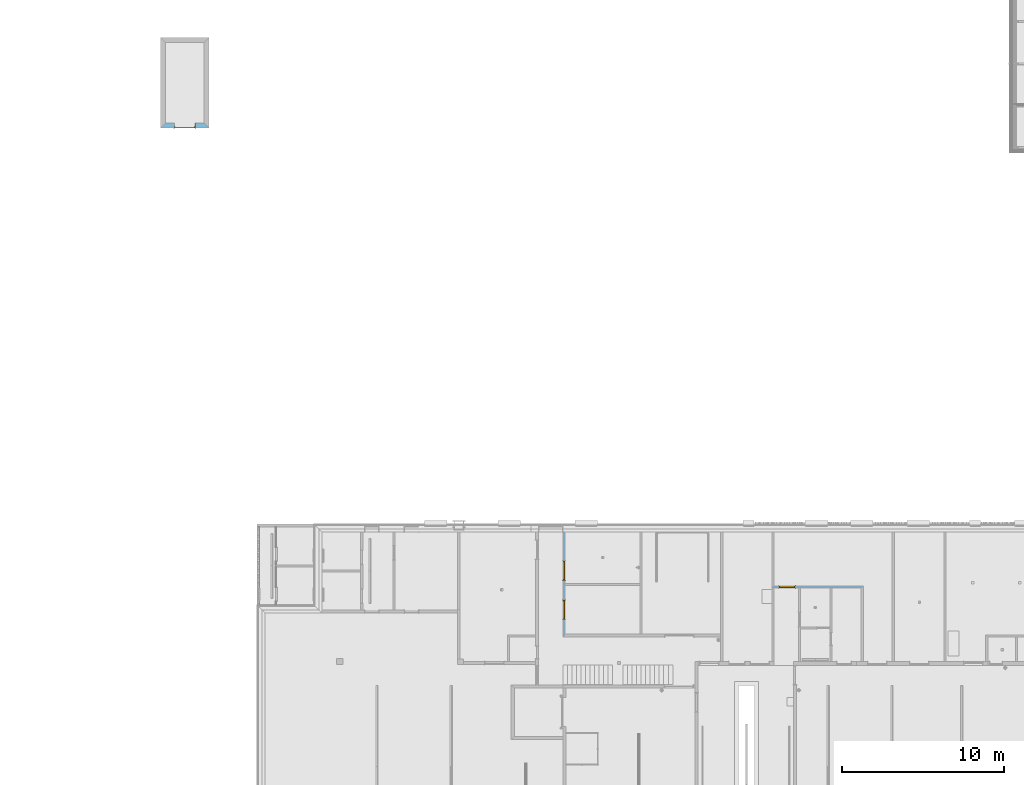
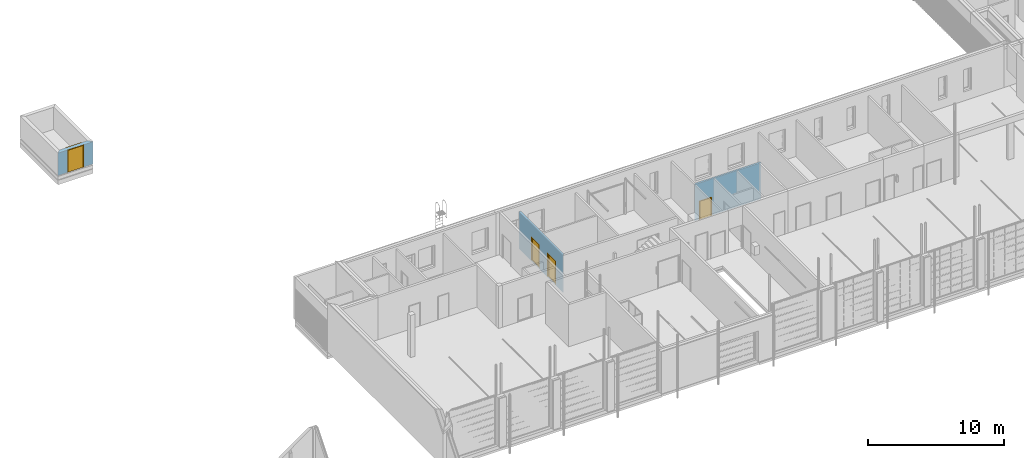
# One storey, part 45 of 112: 4 doors, 4 openings, plus 3 elements that do not belong to this part.
"""IFC2X3 building model written with IfcOpenShell, lengths in millimetres."""

from ifc_helpers import new_model, entity, si_unit, converted_unit, derived_unit, money_unit, direction, frame, origin_with_axes, origin_2d_with_axis, place, context, subcontext, project, spatial, polyline, rectangle, outline, extrude, faceted_brep, material, layer, layer_set, layer_usage, type_object, element, fill, save


model = new_model("IFC2X3")

# Units and contexts
model_context = context("Model", 3, precision=0.01, world=origin_with_axes(), true_north=direction((0.0, 1.0)))
body_context = subcontext(model_context, "Body", "Model", "MODEL_VIEW")
ifc_project = project(units=[si_unit("LENGTHUNIT", "METRE", prefix="MILLI"), si_unit("AREAUNIT", "SQUARE_METRE"), si_unit("VOLUMEUNIT", "CUBIC_METRE"), converted_unit("PLANEANGLEUNIT", "DEGREE", entity("IfcPlaneAngleMeasure", 0.0174532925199), si_unit("PLANEANGLEUNIT", "RADIAN"), dimensions=[0, 0, 0, 0, 0, 0, 0]), si_unit("SOLIDANGLEUNIT", "STERADIAN"), money_unit("EUR"), converted_unit("TIMEUNIT", "Year", entity("IfcTimeMeasure", 31556926.0), si_unit("TIMEUNIT", "SECOND"), dimensions=[0, 0, 1, 0, 0, 0, 0]), si_unit("MASSUNIT", "GRAM", prefix="KILO"), si_unit("THERMODYNAMICTEMPERATUREUNIT", "DEGREE_CELSIUS"), si_unit("LUMINOUSINTENSITYUNIT", "LUMEN"), si_unit("ENERGYUNIT", "JOULE", prefix="MEGA"), derived_unit("THERMALCONDUCTANCEUNIT", [(si_unit("POWERUNIT", "WATT"), 1), (si_unit("LENGTHUNIT", "METRE"), -1), (si_unit("THERMODYNAMICTEMPERATUREUNIT", "KELVIN"), -1)]), derived_unit("SPECIFICHEATCAPACITYUNIT", [(si_unit("ENERGYUNIT", "JOULE"), 1), (si_unit("MASSUNIT", "GRAM", prefix="KILO"), -1), (si_unit("THERMODYNAMICTEMPERATUREUNIT", "KELVIN"), -1)]), derived_unit("MASSDENSITYUNIT", [(si_unit("MASSUNIT", "GRAM", prefix="KILO"), 1), (si_unit("VOLUMEUNIT", "CUBIC_METRE"), -1)])], contexts=[model_context])

# Site, building, storey
site_placement = place(None, origin_with_axes())
site = spatial("IfcSite", under=ifc_project, at=site_placement, Name="Politse- ja Piirivalveameti ning Päästeameti ühishoone", CompositionType="ELEMENT")
building_placement = place(site_placement, origin_with_axes())
building = spatial("IfcBuilding", under=site, at=building_placement, Name="Politse- ja Piirivalveameti ning Päästeameti ühishoone", CompositionType="ELEMENT")
storey_placement = place(building_placement, origin_with_axes())
storey = spatial("IfcBuildingStorey", under=building, at=storey_placement, Name="Esimene korrus", CompositionType="ELEMENT", Elevation=0.0)

# Wall, openings, doors
ifc_material_1 = material(Name="KON-05_Betoon Plokk - Konstuktsioon")
ifc_layer_1 = layer(ifc_material_1, 140.0, ventilated="UNKNOWN")
ifc_layer_set_1 = layer_set([ifc_layer_1], Name="SS-02_Sisesein 140")
ifc_layer_usage_1 = layer_usage(ifc_layer_set_1, "AXIS2", "POSITIVE", 0.0)
wall_type_1 = type_object("IfcWallType", Name="SS-02_Sisesein 140 140", PredefinedType="NOTDEFINED")
wall_1_placement = place(storey_placement, frame((18400.0881112, 20999.9520832, -80.0), z_axis=(0.0, 0.0, 1.0), x_axis=(0.0, -1.0, 0.0)))
wall_1 = element("IfcWallStandardCase", 1, at=wall_1_placement, inside=storey, type_object=wall_type_1, material=ifc_layer_usage_1, Name="SS-02", context=body_context, shape_type="SweptSolid", body=[
    extrude(outline(polyline([(0.0, 0.0), (6499.9099304, 0.0), (6309.9099304, 140.0), (0.0, 140.0), (0.0, 0.0)])), origin_with_axes(), (0.0, 0.0, 1.0), 3360.0),
])
opening_1_placement = place(wall_1_placement, frame((2378.72633844, 0.0, 80.0), z_axis=(0.0, 0.0, 1.0), x_axis=(1.0, 0.0, 0.0)))
opening_1 = element("IfcOpeningElement", 2, at=opening_1_placement, cuts=wall_1, Name="TU-01-2", context=body_context, shape_type="SweptSolid", body=[
    extrude(rectangle(XDim=1200.0, YDim=2100.0, at=origin_2d_with_axis()), frame((0.0, -140.0, 1050.0), z_axis=(0.0, -1.0, 0.0), x_axis=(-1.0, 0.0, 0.0)), (0.0, 0.0, -1.0), 420.0),
    extrude(rectangle(XDim=1274.0, YDim=2137.0, at=origin_2d_with_axis()), frame((0.0, 0.0, 1068.5), z_axis=(0.0, -1.0, 0.0), x_axis=(-1.0, 0.0, 0.0)), (0.0, 0.0, 1.0), 140.0),
    extrude(rectangle(XDim=1274.0, YDim=2137.0, at=origin_2d_with_axis()), frame((0.0, 140.0, 1068.5), z_axis=(0.0, 1.0, 0.0), x_axis=(-1.0, 0.0, 0.0)), (0.0, 0.0, 1.0), 140.0),
])
opening_2_placement = place(wall_1_placement, frame((4809.88896278, 0.0, 80.0), z_axis=(0.0, 0.0, 1.0), x_axis=(1.0, 0.0, 0.0)))
opening_2 = element("IfcOpeningElement", 3, at=opening_2_placement, cuts=wall_1, Name="TU-01-2", context=body_context, shape_type="SweptSolid", body=[
    extrude(rectangle(XDim=1200.0, YDim=2100.0, at=origin_2d_with_axis()), frame((0.0, -140.0, 1050.0), z_axis=(0.0, 1.0, 0.0), x_axis=(1.0, 0.0, 0.0)), (0.0, 0.0, 1.0), 420.0),
    extrude(rectangle(XDim=1274.0, YDim=2137.0, at=origin_2d_with_axis()), frame((0.0, 0.0, 1068.5), z_axis=(0.0, 1.0, 0.0), x_axis=(1.0, 0.0, 0.0)), (0.0, 0.0, -1.0), 140.0),
    extrude(rectangle(XDim=1274.0, YDim=2137.0, at=origin_2d_with_axis()), frame((0.0, 140.0, 1068.5), z_axis=(0.0, -1.0, 0.0), x_axis=(1.0, 0.0, 0.0)), (0.0, 0.0, -1.0), 140.0),
])
door_style_1 = type_object("IfcDoorStyle", Name="Double Door Asymmetric 23", ConstructionType="NOTDEFINED", OperationType="DOUBLE_DOOR_SINGLE_SWING", ParameterTakesPrecedence=False, Sizeable=False)
door_1_placement = place(opening_1_placement, frame((-600.0, 0.0, 0.0), z_axis=(0.0, 0.0, 1.0), x_axis=(1.0, 0.0, 0.0)))
door_1 = element("IfcDoor", 4, at=door_1_placement, inside=storey, type_object=door_style_1, Name="TU-01-2", ObjectType="DOOR", OverallHeight=2100.0, OverallWidth=1200.0, context=body_context, shape_type="Brep", body=[
    faceted_brep([(28.0, 100.0, 0.0), (40.0, 100.0, 0.0), (40.0, 100.0, 12.0), (28.0, 100.0, 12.0), (1172.0, 100.0, 0.0), (1160.0, 100.0, 0.0), (1160.0, 25.0, 0.0), (40.0, 25.0, 0.0), (40.0, 25.0, 12.0), (1160.0, 25.0, 12.0), (1160.0, 100.0, 12.0), (1172.0, 100.0, 12.0)], [[[0, 1, 2, 3]], [[0, 4, 5, 6, 7, 1]], [[1, 7, 8, 2]], [[3, 2, 8, 9, 10, 11]], [[4, 0, 3, 11]], [[5, 4, 11, 10]], [[6, 5, 10, 9]], [[7, 6, 9, 8]]]),
    faceted_brep([(1200.0, 25.0, 0.0), (1200.0, 0.0, 0.0), (1175.0, 0.0, 0.0), (1175.0, 25.0, 0.0), (1200.0, 25.0, 2100.0), (1200.0, 0.0, 2100.0), (1175.0, 0.0, 2075.0), (1175.0, 25.0, 2075.0)], [[[0, 1, 2, 3]], [[4, 5, 1, 0]], [[1, 5, 6, 2]], [[3, 2, 6, 7]], [[0, 3, 7, 4]], [[7, 6, 5, 4]]]),
    faceted_brep([(0.0, 25.0, 2100.0), (0.0, 0.0, 2100.0), (25.0, 0.0, 2075.0), (25.0, 25.0, 2075.0), (0.0, 25.0, 0.0), (0.0, 0.0, 0.0), (25.0, 0.0, 0.0), (25.0, 25.0, 0.0)], [[[0, 1, 2, 3]], [[4, 5, 1, 0]], [[1, 5, 6, 2]], [[3, 2, 6, 7]], [[0, 3, 7, 4]], [[7, 6, 5, 4]]]),
    faceted_brep([(1175.0, 25.0, 2075.0), (1175.0, 0.0, 2075.0), (25.0, 0.0, 2075.0), (25.0, 25.0, 2075.0), (1200.0, 25.0, 2100.0), (1200.0, 0.0, 2100.0), (0.0, 0.0, 2100.0), (0.0, 25.0, 2100.0)], [[[0, 1, 2, 3]], [[4, 5, 1, 0]], [[1, 5, 6, 2]], [[3, 2, 6, 7]], [[0, 3, 7, 4]], [[7, 6, 5, 4]]]),
    faceted_brep([(1237.0, -19.0, 0.0), (1187.0, -19.0, 0.0), (1187.0, 0.0, 0.0), (1237.0, 0.0, 0.0), (1237.0, -19.0, 2137.0), (1187.0, -19.0, 2087.0), (1187.0, 0.0, 2087.0), (1237.0, 0.0, 2137.0)], [[[0, 1, 2, 3]], [[0, 4, 5, 1]], [[1, 5, 6, 2]], [[3, 2, 6, 7]], [[4, 0, 3, 7]], [[5, 4, 7, 6]]]),
    faceted_brep([(-37.0, -19.0, 2137.0), (13.0, -19.0, 2087.0), (13.0, 0.0, 2087.0), (-37.0, 0.0, 2137.0), (-37.0, -19.0, 0.0), (13.0, -19.0, 0.0), (13.0, 0.0, 0.0), (-37.0, 0.0, 0.0)], [[[0, 1, 2, 3]], [[0, 4, 5, 1]], [[1, 5, 6, 2]], [[3, 2, 6, 7]], [[4, 0, 3, 7]], [[5, 4, 7, 6]]]),
    faceted_brep([(1237.0, -19.0, 2137.0), (1187.0, -19.0, 2087.0), (1187.0, 0.0, 2087.0), (1237.0, 0.0, 2137.0), (-37.0, -19.0, 2137.0), (13.0, -19.0, 2087.0), (13.0, 0.0, 2087.0), (-37.0, 0.0, 2137.0)], [[[0, 1, 2, 3]], [[0, 4, 5, 1]], [[1, 5, 6, 2]], [[3, 2, 6, 7]], [[4, 0, 3, 7]], [[5, 4, 7, 6]]]),
    faceted_brep([(1237.0, 159.0, 0.0), (1237.0, 140.0, 0.0), (1187.0, 140.0, 0.0), (1187.0, 159.0, 0.0), (1237.0, 159.0, 2137.0), (1237.0, 140.0, 2137.0), (1187.0, 140.0, 2087.0), (1187.0, 159.0, 2087.0)], [[[0, 1, 2, 3]], [[4, 5, 1, 0]], [[1, 5, 6, 2]], [[3, 2, 6, 7]], [[0, 3, 7, 4]], [[7, 6, 5, 4]]]),
    faceted_brep([(-37.0, 159.0, 2137.0), (-37.0, 140.0, 2137.0), (13.0, 140.0, 2087.0), (13.0, 159.0, 2087.0), (-37.0, 159.0, 0.0), (-37.0, 140.0, 0.0), (13.0, 140.0, 0.0), (13.0, 159.0, 0.0)], [[[0, 1, 2, 3]], [[4, 5, 1, 0]], [[1, 5, 6, 2]], [[3, 2, 6, 7]], [[0, 3, 7, 4]], [[7, 6, 5, 4]]]),
    faceted_brep([(1237.0, 159.0, 2137.0), (1237.0, 140.0, 2137.0), (1187.0, 140.0, 2087.0), (1187.0, 159.0, 2087.0), (-37.0, 159.0, 2137.0), (-37.0, 140.0, 2137.0), (13.0, 140.0, 2087.0), (13.0, 159.0, 2087.0)], [[[0, 1, 2, 3]], [[4, 5, 1, 0]], [[1, 5, 6, 2]], [[3, 2, 6, 7]], [[0, 3, 7, 4]], [[7, 6, 5, 4]]]),
    faceted_brep([(1160.0, 100.0, 0.0), (1160.0, 25.0, 0.0), (1160.0, 25.0, 2060.0), (1160.0, 100.0, 2060.0), (1172.0, 100.0, 0.0), (1172.0, 140.0, 0.0), (1200.0, 140.0, 0.0), (1200.0, 25.0, 0.0), (1200.0, 25.0, 2060.0), (1172.0, 100.0, 2060.0), (1200.0, 140.0, 2060.0), (1172.0, 140.0, 2060.0)], [[[0, 1, 2, 3]], [[4, 5, 6, 7, 1, 0]], [[1, 7, 8, 2]], [[9, 3, 2, 8, 10, 11]], [[9, 4, 0, 3]], [[11, 5, 4, 9]], [[11, 10, 6, 5]], [[6, 10, 8, 7]]]),
    faceted_brep([(28.0, 100.0, 2060.0), (28.0, 140.0, 2060.0), (0.0, 140.0, 2060.0), (0.0, 25.0, 2060.0), (40.0, 25.0, 2060.0), (40.0, 100.0, 2060.0), (28.0, 100.0, 0.0), (28.0, 140.0, 0.0), (0.0, 140.0, 0.0), (0.0, 25.0, 0.0), (40.0, 25.0, 0.0), (40.0, 100.0, 0.0)], [[[0, 1, 2, 3, 4, 5]], [[0, 6, 7, 1]], [[7, 8, 2, 1]], [[2, 8, 9, 3]], [[3, 9, 10, 4]], [[5, 4, 10, 11]], [[5, 11, 6, 0]], [[6, 11, 10, 9, 8, 7]]]),
    faceted_brep([(1172.0, 140.0, 2072.0), (28.0, 140.0, 2072.0), (28.0, 140.0, 2060.0), (0.0, 140.0, 2060.0), (0.0, 140.0, 2100.0), (1200.0, 140.0, 2100.0), (1200.0, 140.0, 2060.0), (1172.0, 140.0, 2060.0), (1172.0, 100.0, 2072.0), (28.0, 100.0, 2072.0), (28.0, 100.0, 2060.0), (40.0, 100.0, 2060.0), (40.0, 25.0, 2060.0), (0.0, 25.0, 2060.0), (0.0, 25.0, 2100.0), (1200.0, 25.0, 2100.0), (1200.0, 25.0, 2060.0), (1172.0, 100.0, 2060.0), (1160.0, 25.0, 2060.0), (1160.0, 100.0, 2060.0)], [[[0, 1, 2, 3, 4, 5, 6, 7]], [[0, 8, 9, 1]], [[1, 9, 10, 2]], [[10, 11, 12, 13, 3, 2]], [[4, 3, 13, 14]], [[5, 4, 14, 15]], [[6, 5, 15, 16]], [[17, 7, 6, 16, 18, 19]], [[7, 17, 8, 0]], [[10, 9, 8, 17, 19, 11]], [[19, 18, 12, 11]], [[12, 18, 16, 15, 14, 13]]]),
    faceted_brep([(28.0, 140.0, 0.0), (328.0, 140.0, 0.0), (328.0, 100.0, 0.0), (28.0, 100.0, 0.0), (28.0, 140.0, 2072.0), (328.0, 140.0, 2072.0), (328.0, 100.0, 2072.0), (28.0, 100.0, 2072.0)], [[[0, 1, 2, 3]], [[0, 4, 5, 1]], [[1, 5, 6, 2]], [[3, 2, 6, 7]], [[4, 0, 3, 7]], [[5, 4, 7, 6]]]),
    faceted_brep([(1172.0, 140.0, 0.0), (1172.0, 100.0, 0.0), (328.0, 100.0, 0.0), (328.0, 140.0, 0.0), (1172.0, 140.0, 2072.0), (1172.0, 100.0, 2072.0), (328.0, 100.0, 2072.0), (328.0, 140.0, 2072.0)], [[[0, 1, 2, 3]], [[4, 5, 1, 0]], [[1, 5, 6, 2]], [[3, 2, 6, 7]], [[0, 3, 7, 4]], [[7, 6, 5, 4]]]),
])
fill(opening_1, door_1)
door_style_2 = type_object("IfcDoorStyle", Name="Double Door Asymmetric 23", ConstructionType="NOTDEFINED", OperationType="DOUBLE_DOOR_SINGLE_SWING", ParameterTakesPrecedence=False, Sizeable=False)
door_2_placement = place(opening_2_placement, frame((-600.0, 0.0, 0.0), z_axis=(0.0, 0.0, 1.0), x_axis=(1.0, 0.0, 0.0)))
door_2 = element("IfcDoor", 5, at=door_2_placement, inside=storey, type_object=door_style_2, Name="TU-01-2", ObjectType="DOOR", OverallHeight=2100.0, OverallWidth=1200.0, context=body_context, shape_type="Brep", body=[
    faceted_brep([(1172.0, 100.0, 0.0), (1172.0, 100.0, 12.0), (1160.0, 100.0, 12.0), (1160.0, 100.0, 0.0), (28.0, 100.0, 0.0), (28.0, 100.0, 12.0), (40.0, 100.0, 12.0), (40.0, 25.0, 12.0), (1160.0, 25.0, 12.0), (1160.0, 25.0, 0.0), (40.0, 25.0, 0.0), (40.0, 100.0, 0.0)], [[[0, 1, 2, 3]], [[4, 5, 1, 0]], [[1, 5, 6, 7, 8, 2]], [[3, 2, 8, 9]], [[0, 3, 9, 10, 11, 4]], [[11, 6, 5, 4]], [[10, 7, 6, 11]], [[9, 8, 7, 10]]]),
    faceted_brep([(0.0, 25.0, 0.0), (25.0, 25.0, 0.0), (25.0, 0.0, 0.0), (0.0, 0.0, 0.0), (0.0, 25.0, 2100.0), (25.0, 25.0, 2075.0), (25.0, 0.0, 2075.0), (0.0, 0.0, 2100.0)], [[[0, 1, 2, 3]], [[0, 4, 5, 1]], [[1, 5, 6, 2]], [[3, 2, 6, 7]], [[4, 0, 3, 7]], [[5, 4, 7, 6]]]),
    faceted_brep([(1200.0, 25.0, 2100.0), (1175.0, 25.0, 2075.0), (1175.0, 0.0, 2075.0), (1200.0, 0.0, 2100.0), (1200.0, 25.0, 0.0), (1175.0, 25.0, 0.0), (1175.0, 0.0, 0.0), (1200.0, 0.0, 0.0)], [[[0, 1, 2, 3]], [[0, 4, 5, 1]], [[1, 5, 6, 2]], [[3, 2, 6, 7]], [[4, 0, 3, 7]], [[5, 4, 7, 6]]]),
    faceted_brep([(25.0, 25.0, 2075.0), (1175.0, 25.0, 2075.0), (1175.0, 0.0, 2075.0), (25.0, 0.0, 2075.0), (0.0, 25.0, 2100.0), (1200.0, 25.0, 2100.0), (1200.0, 0.0, 2100.0), (0.0, 0.0, 2100.0)], [[[0, 1, 2, 3]], [[0, 4, 5, 1]], [[1, 5, 6, 2]], [[3, 2, 6, 7]], [[4, 0, 3, 7]], [[5, 4, 7, 6]]]),
    faceted_brep([(-37.0, -19.0, 0.0), (-37.0, 0.0, 0.0), (13.0, 0.0, 0.0), (13.0, -19.0, 0.0), (-37.0, -19.0, 2137.0), (-37.0, 0.0, 2137.0), (13.0, 0.0, 2087.0), (13.0, -19.0, 2087.0)], [[[0, 1, 2, 3]], [[4, 5, 1, 0]], [[1, 5, 6, 2]], [[3, 2, 6, 7]], [[0, 3, 7, 4]], [[7, 6, 5, 4]]]),
    faceted_brep([(1237.0, -19.0, 2137.0), (1237.0, 0.0, 2137.0), (1187.0, 0.0, 2087.0), (1187.0, -19.0, 2087.0), (1237.0, -19.0, 0.0), (1237.0, 0.0, 0.0), (1187.0, 0.0, 0.0), (1187.0, -19.0, 0.0)], [[[0, 1, 2, 3]], [[4, 5, 1, 0]], [[1, 5, 6, 2]], [[3, 2, 6, 7]], [[0, 3, 7, 4]], [[7, 6, 5, 4]]]),
    faceted_brep([(-37.0, -19.0, 2137.0), (-37.0, 0.0, 2137.0), (13.0, 0.0, 2087.0), (13.0, -19.0, 2087.0), (1237.0, -19.0, 2137.0), (1237.0, 0.0, 2137.0), (1187.0, 0.0, 2087.0), (1187.0, -19.0, 2087.0)], [[[0, 1, 2, 3]], [[4, 5, 1, 0]], [[1, 5, 6, 2]], [[3, 2, 6, 7]], [[0, 3, 7, 4]], [[7, 6, 5, 4]]]),
    faceted_brep([(-37.0, 159.0, 0.0), (13.0, 159.0, 0.0), (13.0, 140.0, 0.0), (-37.0, 140.0, 0.0), (-37.0, 159.0, 2137.0), (13.0, 159.0, 2087.0), (13.0, 140.0, 2087.0), (-37.0, 140.0, 2137.0)], [[[0, 1, 2, 3]], [[0, 4, 5, 1]], [[1, 5, 6, 2]], [[3, 2, 6, 7]], [[4, 0, 3, 7]], [[5, 4, 7, 6]]]),
    faceted_brep([(1237.0, 159.0, 2137.0), (1187.0, 159.0, 2087.0), (1187.0, 140.0, 2087.0), (1237.0, 140.0, 2137.0), (1237.0, 159.0, 0.0), (1187.0, 159.0, 0.0), (1187.0, 140.0, 0.0), (1237.0, 140.0, 0.0)], [[[0, 1, 2, 3]], [[0, 4, 5, 1]], [[1, 5, 6, 2]], [[3, 2, 6, 7]], [[4, 0, 3, 7]], [[5, 4, 7, 6]]]),
    faceted_brep([(-37.0, 159.0, 2137.0), (13.0, 159.0, 2087.0), (13.0, 140.0, 2087.0), (-37.0, 140.0, 2137.0), (1237.0, 159.0, 2137.0), (1187.0, 159.0, 2087.0), (1187.0, 140.0, 2087.0), (1237.0, 140.0, 2137.0)], [[[0, 1, 2, 3]], [[0, 4, 5, 1]], [[1, 5, 6, 2]], [[3, 2, 6, 7]], [[4, 0, 3, 7]], [[5, 4, 7, 6]]]),
    faceted_brep([(40.0, 100.0, 0.0), (40.0, 100.0, 2060.0), (40.0, 25.0, 2060.0), (40.0, 25.0, 0.0), (28.0, 100.0, 2060.0), (28.0, 100.0, 0.0), (28.0, 140.0, 2060.0), (0.0, 140.0, 2060.0), (0.0, 25.0, 2060.0), (0.0, 25.0, 0.0), (0.0, 140.0, 0.0), (28.0, 140.0, 0.0)], [[[0, 1, 2, 3]], [[4, 1, 0, 5]], [[4, 6, 7, 8, 2, 1]], [[3, 2, 8, 9]], [[5, 0, 3, 9, 10, 11]], [[6, 4, 5, 11]], [[6, 11, 10, 7]], [[10, 9, 8, 7]]]),
    faceted_brep([(1172.0, 100.0, 2060.0), (1160.0, 100.0, 2060.0), (1160.0, 25.0, 2060.0), (1200.0, 25.0, 2060.0), (1200.0, 140.0, 2060.0), (1172.0, 140.0, 2060.0), (1172.0, 100.0, 0.0), (1160.0, 100.0, 0.0), (1160.0, 25.0, 0.0), (1200.0, 25.0, 0.0), (1200.0, 140.0, 0.0), (1172.0, 140.0, 0.0)], [[[0, 1, 2, 3, 4, 5]], [[1, 0, 6, 7]], [[1, 7, 8, 2]], [[3, 2, 8, 9]], [[4, 3, 9, 10]], [[11, 5, 4, 10]], [[0, 5, 11, 6]], [[6, 11, 10, 9, 8, 7]]]),
    faceted_brep([(28.0, 140.0, 2072.0), (28.0, 140.0, 2060.0), (0.0, 140.0, 2060.0), (0.0, 140.0, 2100.0), (1200.0, 140.0, 2100.0), (1200.0, 140.0, 2060.0), (1172.0, 140.0, 2060.0), (1172.0, 140.0, 2072.0), (28.0, 100.0, 2072.0), (28.0, 100.0, 2060.0), (40.0, 100.0, 2060.0), (40.0, 25.0, 2060.0), (0.0, 25.0, 2060.0), (0.0, 25.0, 2100.0), (1200.0, 25.0, 2100.0), (1200.0, 25.0, 2060.0), (1172.0, 100.0, 2060.0), (1160.0, 25.0, 2060.0), (1160.0, 100.0, 2060.0), (1172.0, 100.0, 2072.0)], [[[0, 1, 2, 3, 4, 5, 6, 7]], [[1, 0, 8, 9]], [[9, 10, 11, 12, 2, 1]], [[2, 12, 13, 3]], [[3, 13, 14, 4]], [[4, 14, 15, 5]], [[16, 6, 5, 15, 17, 18]], [[7, 6, 16, 19]], [[0, 7, 19, 8]], [[16, 18, 10, 9, 8, 19]], [[10, 18, 17, 11]], [[17, 15, 14, 13, 12, 11]]]),
    faceted_brep([(1172.0, 140.0, 0.0), (1172.0, 100.0, 0.0), (872.0, 100.0, 0.0), (872.0, 140.0, 0.0), (1172.0, 140.0, 2072.0), (1172.0, 100.0, 2072.0), (872.0, 100.0, 2072.0), (872.0, 140.0, 2072.0)], [[[0, 1, 2, 3]], [[4, 5, 1, 0]], [[1, 5, 6, 2]], [[3, 2, 6, 7]], [[0, 3, 7, 4]], [[7, 6, 5, 4]]]),
    faceted_brep([(28.0, 140.0, 0.0), (872.0, 140.0, 0.0), (872.0, 100.0, 0.0), (28.0, 100.0, 0.0), (28.0, 140.0, 2072.0), (872.0, 140.0, 2072.0), (872.0, 100.0, 2072.0), (28.0, 100.0, 2072.0)], [[[0, 1, 2, 3]], [[0, 4, 5, 1]], [[1, 5, 6, 2]], [[3, 2, 6, 7]], [[4, 0, 3, 7]], [[5, 4, 7, 6]]]),
])
fill(opening_2, door_2)

# Wall, opening, door
ifc_layer_usage_2 = layer_usage(ifc_layer_set_1, "AXIS2", "NEGATIVE", 0.0)
wall_2_placement = place(storey_placement, frame((36984.6147098, 17540.0198611, 0.0), z_axis=(0.0, 0.0, 1.0), x_axis=(-1.0, 0.0, 0.0)))
wall_2 = element("IfcWallStandardCase", 6, at=wall_2_placement, inside=storey, type_object=wall_type_1, material=ifc_layer_usage_2, Name="SS-02", context=body_context, shape_type="SweptSolid", body=[
    extrude(outline(polyline([(0.0, -140.0), (5519.90466033, -140.0), (5659.90466033, 0.0), (0.0, 0.0), (0.0, -140.0)])), origin_with_axes(), (0.0, 0.0, 1.0), 3280.0),
])
opening_3_placement = place(wall_2_placement, frame((4720.34111133, 0.0, 0.0), z_axis=(0.0, 0.0, 1.0), x_axis=(1.0, 0.0, 0.0)))
opening_3 = element("IfcOpeningElement", 7, at=opening_3_placement, cuts=wall_2, Name="TU-01-3", context=body_context, shape_type="SweptSolid", body=[
    extrude(rectangle(XDim=1000.0, YDim=1650.0, at=origin_2d_with_axis()), frame((0.0, -140.0, 825.0), z_axis=(0.0, 1.0, 0.0), x_axis=(1.0, 0.0, 0.0)), (0.0, 0.0, 1.0), 420.0),
    extrude(rectangle(XDim=1074.0, YDim=1687.0, at=origin_2d_with_axis()), frame((0.0, -140.0, 843.5), z_axis=(0.0, 1.0, 0.0), x_axis=(1.0, 0.0, 0.0)), (0.0, 0.0, -1.0), 140.0),
    extrude(rectangle(XDim=1074.0, YDim=1687.0, at=origin_2d_with_axis()), frame((0.0, 0.0, 843.5), z_axis=(0.0, -1.0, 0.0), x_axis=(1.0, 0.0, 0.0)), (0.0, 0.0, -1.0), 140.0),
])
door_style_3 = type_object("IfcDoorStyle", Name="Door 23", ConstructionType="NOTDEFINED", OperationType="SINGLE_SWING_RIGHT", ParameterTakesPrecedence=False, Sizeable=False)
door_3_placement = place(opening_3_placement, frame((-500.0, 0.0, 0.0), z_axis=(0.0, 0.0, 1.0), x_axis=(1.0, 0.0, 0.0)))
door_3 = element("IfcDoor", 8, at=door_3_placement, inside=storey, type_object=door_style_3, Name="TU-01-3", ObjectType="DOOR", OverallHeight=1650.0, OverallWidth=1000.0, context=body_context, shape_type="Brep", body=[
    faceted_brep([(972.0, -40.0, 0.0), (972.0, -40.0, 12.0), (960.0, -40.0, 12.0), (960.0, -40.0, 0.0), (28.0, -40.0, 0.0), (28.0, -40.0, 12.0), (40.0, -40.0, 12.0), (40.0, -115.0, 12.0), (960.0, -115.0, 12.0), (960.0, -115.0, 0.0), (40.0, -115.0, 0.0), (40.0, -40.0, 0.0)], [[[0, 1, 2, 3]], [[4, 5, 1, 0]], [[1, 5, 6, 7, 8, 2]], [[3, 2, 8, 9]], [[0, 3, 9, 10, 11, 4]], [[11, 6, 5, 4]], [[10, 7, 6, 11]], [[9, 8, 7, 10]]]),
    faceted_brep([(0.0, -115.0, 0.0), (25.0, -115.0, 0.0), (25.0, -140.0, 0.0), (0.0, -140.0, 0.0), (0.0, -115.0, 1650.0), (25.0, -115.0, 1625.0), (25.0, -140.0, 1625.0), (0.0, -140.0, 1650.0)], [[[0, 1, 2, 3]], [[0, 4, 5, 1]], [[1, 5, 6, 2]], [[3, 2, 6, 7]], [[4, 0, 3, 7]], [[5, 4, 7, 6]]]),
    faceted_brep([(1000.0, -115.0, 1650.0), (975.0, -115.0, 1625.0), (975.0, -140.0, 1625.0), (1000.0, -140.0, 1650.0), (1000.0, -115.0, 0.0), (975.0, -115.0, 0.0), (975.0, -140.0, 0.0), (1000.0, -140.0, 0.0)], [[[0, 1, 2, 3]], [[0, 4, 5, 1]], [[1, 5, 6, 2]], [[3, 2, 6, 7]], [[4, 0, 3, 7]], [[5, 4, 7, 6]]]),
    faceted_brep([(25.0, -115.0, 1625.0), (975.0, -115.0, 1625.0), (975.0, -140.0, 1625.0), (25.0, -140.0, 1625.0), (0.0, -115.0, 1650.0), (1000.0, -115.0, 1650.0), (1000.0, -140.0, 1650.0), (0.0, -140.0, 1650.0)], [[[0, 1, 2, 3]], [[0, 4, 5, 1]], [[1, 5, 6, 2]], [[3, 2, 6, 7]], [[4, 0, 3, 7]], [[5, 4, 7, 6]]]),
    faceted_brep([(-37.0, -159.0, 0.0), (-37.0, -140.0, 0.0), (13.0, -140.0, 0.0), (13.0, -159.0, 0.0), (-37.0, -159.0, 1687.0), (-37.0, -140.0, 1687.0), (13.0, -140.0, 1637.0), (13.0, -159.0, 1637.0)], [[[0, 1, 2, 3]], [[4, 5, 1, 0]], [[1, 5, 6, 2]], [[3, 2, 6, 7]], [[0, 3, 7, 4]], [[7, 6, 5, 4]]]),
    faceted_brep([(1037.0, -159.0, 1687.0), (1037.0, -140.0, 1687.0), (987.0, -140.0, 1637.0), (987.0, -159.0, 1637.0), (1037.0, -159.0, 0.0), (1037.0, -140.0, 0.0), (987.0, -140.0, 0.0), (987.0, -159.0, 0.0)], [[[0, 1, 2, 3]], [[4, 5, 1, 0]], [[1, 5, 6, 2]], [[3, 2, 6, 7]], [[0, 3, 7, 4]], [[7, 6, 5, 4]]]),
    faceted_brep([(-37.0, -159.0, 1687.0), (-37.0, -140.0, 1687.0), (13.0, -140.0, 1637.0), (13.0, -159.0, 1637.0), (1037.0, -159.0, 1687.0), (1037.0, -140.0, 1687.0), (987.0, -140.0, 1637.0), (987.0, -159.0, 1637.0)], [[[0, 1, 2, 3]], [[4, 5, 1, 0]], [[1, 5, 6, 2]], [[3, 2, 6, 7]], [[0, 3, 7, 4]], [[7, 6, 5, 4]]]),
    faceted_brep([(-37.0, 19.0, 0.0), (13.0, 19.0, 0.0), (13.0, 0.0, 0.0), (-37.0, 0.0, 0.0), (-37.0, 19.0, 1687.0), (13.0, 19.0, 1637.0), (13.0, 0.0, 1637.0), (-37.0, 0.0, 1687.0)], [[[0, 1, 2, 3]], [[0, 4, 5, 1]], [[1, 5, 6, 2]], [[3, 2, 6, 7]], [[4, 0, 3, 7]], [[5, 4, 7, 6]]]),
    faceted_brep([(1037.0, 19.0, 1687.0), (987.0, 19.0, 1637.0), (987.0, 0.0, 1637.0), (1037.0, 0.0, 1687.0), (1037.0, 19.0, 0.0), (987.0, 19.0, 0.0), (987.0, 0.0, 0.0), (1037.0, 0.0, 0.0)], [[[0, 1, 2, 3]], [[0, 4, 5, 1]], [[1, 5, 6, 2]], [[3, 2, 6, 7]], [[4, 0, 3, 7]], [[5, 4, 7, 6]]]),
    faceted_brep([(-37.0, 19.0, 1687.0), (13.0, 19.0, 1637.0), (13.0, 0.0, 1637.0), (-37.0, 0.0, 1687.0), (1037.0, 19.0, 1687.0), (987.0, 19.0, 1637.0), (987.0, 0.0, 1637.0), (1037.0, 0.0, 1687.0)], [[[0, 1, 2, 3]], [[0, 4, 5, 1]], [[1, 5, 6, 2]], [[3, 2, 6, 7]], [[4, 0, 3, 7]], [[5, 4, 7, 6]]]),
    faceted_brep([(40.0, -40.0, 0.0), (40.0, -40.0, 1610.0), (40.0, -115.0, 1610.0), (40.0, -115.0, 0.0), (28.0, -40.0, 1610.0), (28.0, -40.0, 0.0), (28.0, 0.0, 1610.0), (0.0, 0.0, 1610.0), (0.0, -115.0, 1610.0), (0.0, -115.0, 0.0), (0.0, 0.0, 0.0), (28.0, 0.0, 0.0)], [[[0, 1, 2, 3]], [[4, 1, 0, 5]], [[4, 6, 7, 8, 2, 1]], [[3, 2, 8, 9]], [[5, 0, 3, 9, 10, 11]], [[6, 4, 5, 11]], [[6, 11, 10, 7]], [[10, 9, 8, 7]]]),
    faceted_brep([(972.0, -40.0, 1610.0), (960.0, -40.0, 1610.0), (960.0, -115.0, 1610.0), (1000.0, -115.0, 1610.0), (1000.0, 0.0, 1610.0), (972.0, 0.0, 1610.0), (972.0, -40.0, 0.0), (960.0, -40.0, 0.0), (960.0, -115.0, 0.0), (1000.0, -115.0, 0.0), (1000.0, 0.0, 0.0), (972.0, 0.0, 0.0)], [[[0, 1, 2, 3, 4, 5]], [[1, 0, 6, 7]], [[1, 7, 8, 2]], [[3, 2, 8, 9]], [[4, 3, 9, 10]], [[11, 5, 4, 10]], [[0, 5, 11, 6]], [[6, 11, 10, 9, 8, 7]]]),
    faceted_brep([(28.0, 0.0, 1622.0), (28.0, 0.0, 1610.0), (0.0, 0.0, 1610.0), (0.0, 0.0, 1650.0), (1000.0, 0.0, 1650.0), (1000.0, 0.0, 1610.0), (972.0, 0.0, 1610.0), (972.0, 0.0, 1622.0), (28.0, -40.0, 1622.0), (28.0, -40.0, 1610.0), (40.0, -40.0, 1610.0), (40.0, -115.0, 1610.0), (0.0, -115.0, 1610.0), (0.0, -115.0, 1650.0), (1000.0, -115.0, 1650.0), (1000.0, -115.0, 1610.0), (972.0, -40.0, 1610.0), (960.0, -115.0, 1610.0), (960.0, -40.0, 1610.0), (972.0, -40.0, 1622.0)], [[[0, 1, 2, 3, 4, 5, 6, 7]], [[1, 0, 8, 9]], [[9, 10, 11, 12, 2, 1]], [[2, 12, 13, 3]], [[3, 13, 14, 4]], [[4, 14, 15, 5]], [[16, 6, 5, 15, 17, 18]], [[7, 6, 16, 19]], [[0, 7, 19, 8]], [[16, 18, 10, 9, 8, 19]], [[10, 18, 17, 11]], [[17, 15, 14, 13, 12, 11]]]),
    faceted_brep([(972.0, 0.0, 0.0), (972.0, -40.0, 0.0), (28.0, -40.0, 0.0), (28.0, 0.0, 0.0), (972.0, 0.0, 1622.0), (972.0, -40.0, 1622.0), (28.0, -40.0, 1622.0), (28.0, 0.0, 1622.0)], [[[0, 1, 2, 3]], [[4, 5, 1, 0]], [[1, 5, 6, 2]], [[3, 2, 6, 7]], [[0, 3, 7, 4]], [[7, 6, 5, 4]]]),
])
fill(opening_3, door_3)

ifc_material_2 = material(Name="KON-04_Betoon - Konstuktsioon")
ifc_layer_2 = layer(ifc_material_2, 300.0, ventilated="UNKNOWN")
ifc_layer_set_2 = layer_set([ifc_layer_2], Name="VS-60_Välissein lõhkeainehoidla")
ifc_layer_usage_3 = layer_usage(ifc_layer_set_2, "AXIS2", "NEGATIVE", 300.0)
wall_type_2 = type_object("IfcWallType", Name="VS-60_Välissein lõhkeainehoidla 300", PredefinedType="NOTDEFINED")
wall_3_placement = place(storey_placement, frame((-6464.49139249, 45978.0648668, 92.4027833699), z_axis=(0.0, 0.0, 1.0), x_axis=(1.0, 0.0, 0.0)))
wall_3 = element("IfcWallStandardCase", 9, at=wall_3_placement, inside=storey, type_object=wall_type_2, material=ifc_layer_usage_3, Name="VS-60", context=body_context, shape_type="SweptSolid", body=[
    extrude(outline(polyline([(0.0, 0.0), (2998.32964356, 0.0), (2698.4191136, 300.0), (300.0, 300.0), (0.0, 0.0)])), origin_with_axes(), (0.0, 0.0, 1.0), 2007.59721663),
])
opening_4_placement = place(wall_3_placement, frame((1500.0, 0.0, 0.0), z_axis=(0.0, 0.0, 1.0), x_axis=(1.0, 0.0, 0.0)))
opening_4 = element("IfcOpeningElement", 10, at=opening_4_placement, cuts=wall_3, Name="VU-61 (kuulub hoidla komplekti)", context=body_context, shape_type="SweptSolid", body=[
    extrude(rectangle(XDim=1300.0, YDim=2000.0, at=origin_2d_with_axis()), frame((0.0, 300.0, 1000.0), z_axis=(0.0, -1.0, 0.0), x_axis=(-1.0, 0.0, 0.0)), (0.0, 0.0, 1.0), 900.0),
    extrude(rectangle(XDim=1374.0, YDim=2037.0, at=origin_2d_with_axis()), frame((0.0, 300.0, 1018.5), z_axis=(0.0, -1.0, 0.0), x_axis=(-1.0, 0.0, 0.0)), (0.0, 0.0, -1.0), 300.0),
    extrude(rectangle(XDim=1374.0, YDim=2037.0, at=origin_2d_with_axis()), frame((0.0, 0.0, 1018.5), z_axis=(0.0, 1.0, 0.0), x_axis=(-1.0, 0.0, 0.0)), (0.0, 0.0, -1.0), 300.0),
])
door_style_4 = type_object("IfcDoorStyle", Name="Door 23", ConstructionType="NOTDEFINED", OperationType="SINGLE_SWING_RIGHT", ParameterTakesPrecedence=False, Sizeable=False)
door_4_placement = place(opening_4_placement, frame((650.0, 0.0, 0.0), z_axis=(0.0, 0.0, 1.0), x_axis=(-1.0, 0.0, 0.0)))
door_4 = element("IfcDoor", 11, at=door_4_placement, inside=storey, type_object=door_style_4, Name="VU-61 (kuulub hoidla komplekti)", ObjectType="DOOR", OverallHeight=2000.0, OverallWidth=1300.0, context=body_context, shape_type="Brep", body=[
    faceted_brep([(0.0, -115.0, 0.0), (25.0, -115.0, 0.0), (25.0, -300.0, 0.0), (0.0, -300.0, 0.0), (0.0, -115.0, 2000.0), (25.0, -115.0, 1975.0), (25.0, -300.0, 1975.0), (0.0, -300.0, 2000.0)], [[[0, 1, 2, 3]], [[0, 4, 5, 1]], [[1, 5, 6, 2]], [[3, 2, 6, 7]], [[4, 0, 3, 7]], [[5, 4, 7, 6]]]),
    faceted_brep([(1300.0, -115.0, 2000.0), (1275.0, -115.0, 1975.0), (1275.0, -300.0, 1975.0), (1300.0, -300.0, 2000.0), (1300.0, -115.0, 0.0), (1275.0, -115.0, 0.0), (1275.0, -300.0, 0.0), (1300.0, -300.0, 0.0)], [[[0, 1, 2, 3]], [[0, 4, 5, 1]], [[1, 5, 6, 2]], [[3, 2, 6, 7]], [[4, 0, 3, 7]], [[5, 4, 7, 6]]]),
    faceted_brep([(25.0, -115.0, 1975.0), (1275.0, -115.0, 1975.0), (1275.0, -300.0, 1975.0), (25.0, -300.0, 1975.0), (0.0, -115.0, 2000.0), (1300.0, -115.0, 2000.0), (1300.0, -300.0, 2000.0), (0.0, -300.0, 2000.0)], [[[0, 1, 2, 3]], [[0, 4, 5, 1]], [[1, 5, 6, 2]], [[3, 2, 6, 7]], [[4, 0, 3, 7]], [[5, 4, 7, 6]]]),
    faceted_brep([(-37.0, -319.0, 0.0), (-37.0, -300.0, 0.0), (13.0, -300.0, 0.0), (13.0, -319.0, 0.0), (-37.0, -319.0, 2037.0), (-37.0, -300.0, 2037.0), (13.0, -300.0, 1987.0), (13.0, -319.0, 1987.0)], [[[0, 1, 2, 3]], [[4, 5, 1, 0]], [[1, 5, 6, 2]], [[3, 2, 6, 7]], [[0, 3, 7, 4]], [[7, 6, 5, 4]]]),
    faceted_brep([(1337.0, -319.0, 2037.0), (1337.0, -300.0, 2037.0), (1287.0, -300.0, 1987.0), (1287.0, -319.0, 1987.0), (1337.0, -319.0, 0.0), (1337.0, -300.0, 0.0), (1287.0, -300.0, 0.0), (1287.0, -319.0, 0.0)], [[[0, 1, 2, 3]], [[4, 5, 1, 0]], [[1, 5, 6, 2]], [[3, 2, 6, 7]], [[0, 3, 7, 4]], [[7, 6, 5, 4]]]),
    faceted_brep([(-37.0, -319.0, 2037.0), (-37.0, -300.0, 2037.0), (13.0, -300.0, 1987.0), (13.0, -319.0, 1987.0), (1337.0, -319.0, 2037.0), (1337.0, -300.0, 2037.0), (1287.0, -300.0, 1987.0), (1287.0, -319.0, 1987.0)], [[[0, 1, 2, 3]], [[4, 5, 1, 0]], [[1, 5, 6, 2]], [[3, 2, 6, 7]], [[0, 3, 7, 4]], [[7, 6, 5, 4]]]),
    faceted_brep([(-37.0, 19.0, 0.0), (13.0, 19.0, 0.0), (13.0, 0.0, 0.0), (-37.0, 0.0, 0.0), (-37.0, 19.0, 2037.0), (13.0, 19.0, 1987.0), (13.0, 0.0, 1987.0), (-37.0, 0.0, 2037.0)], [[[0, 1, 2, 3]], [[0, 4, 5, 1]], [[1, 5, 6, 2]], [[3, 2, 6, 7]], [[4, 0, 3, 7]], [[5, 4, 7, 6]]]),
    faceted_brep([(1337.0, 19.0, 2037.0), (1287.0, 19.0, 1987.0), (1287.0, 0.0, 1987.0), (1337.0, 0.0, 2037.0), (1337.0, 19.0, 0.0), (1287.0, 19.0, 0.0), (1287.0, 0.0, 0.0), (1337.0, 0.0, 0.0)], [[[0, 1, 2, 3]], [[0, 4, 5, 1]], [[1, 5, 6, 2]], [[3, 2, 6, 7]], [[4, 0, 3, 7]], [[5, 4, 7, 6]]]),
    faceted_brep([(-37.0, 19.0, 2037.0), (13.0, 19.0, 1987.0), (13.0, 0.0, 1987.0), (-37.0, 0.0, 2037.0), (1337.0, 19.0, 2037.0), (1287.0, 19.0, 1987.0), (1287.0, 0.0, 1987.0), (1337.0, 0.0, 2037.0)], [[[0, 1, 2, 3]], [[0, 4, 5, 1]], [[1, 5, 6, 2]], [[3, 2, 6, 7]], [[4, 0, 3, 7]], [[5, 4, 7, 6]]]),
    faceted_brep([(40.0, -40.0, 0.0), (40.0, -40.0, 1960.0), (40.0, -115.0, 1960.0), (40.0, -115.0, 0.0), (28.0, -40.0, 1960.0), (28.0, -40.0, 0.0), (28.0, 0.0, 1960.0), (0.0, 0.0, 1960.0), (0.0, -115.0, 1960.0), (0.0, -115.0, 0.0), (0.0, 0.0, 0.0), (28.0, 0.0, 0.0)], [[[0, 1, 2, 3]], [[4, 1, 0, 5]], [[4, 6, 7, 8, 2, 1]], [[3, 2, 8, 9]], [[5, 0, 3, 9, 10, 11]], [[6, 4, 5, 11]], [[6, 11, 10, 7]], [[10, 9, 8, 7]]]),
    faceted_brep([(1272.0, -40.0, 1960.0), (1260.0, -40.0, 1960.0), (1260.0, -115.0, 1960.0), (1300.0, -115.0, 1960.0), (1300.0, 0.0, 1960.0), (1272.0, 0.0, 1960.0), (1272.0, -40.0, 0.0), (1260.0, -40.0, 0.0), (1260.0, -115.0, 0.0), (1300.0, -115.0, 0.0), (1300.0, 0.0, 0.0), (1272.0, 0.0, 0.0)], [[[0, 1, 2, 3, 4, 5]], [[1, 0, 6, 7]], [[1, 7, 8, 2]], [[3, 2, 8, 9]], [[4, 3, 9, 10]], [[11, 5, 4, 10]], [[0, 5, 11, 6]], [[6, 11, 10, 9, 8, 7]]]),
    faceted_brep([(28.0, 0.0, 1972.0), (28.0, 0.0, 1960.0), (0.0, 0.0, 1960.0), (0.0, 0.0, 2000.0), (1300.0, 0.0, 2000.0), (1300.0, 0.0, 1960.0), (1272.0, 0.0, 1960.0), (1272.0, 0.0, 1972.0), (28.0, -40.0, 1972.0), (28.0, -40.0, 1960.0), (40.0, -40.0, 1960.0), (40.0, -115.0, 1960.0), (0.0, -115.0, 1960.0), (0.0, -115.0, 2000.0), (1300.0, -115.0, 2000.0), (1300.0, -115.0, 1960.0), (1272.0, -40.0, 1960.0), (1260.0, -115.0, 1960.0), (1260.0, -40.0, 1960.0), (1272.0, -40.0, 1972.0)], [[[0, 1, 2, 3, 4, 5, 6, 7]], [[1, 0, 8, 9]], [[9, 10, 11, 12, 2, 1]], [[2, 12, 13, 3]], [[3, 13, 14, 4]], [[4, 14, 15, 5]], [[16, 6, 5, 15, 17, 18]], [[7, 6, 16, 19]], [[0, 7, 19, 8]], [[16, 18, 10, 9, 8, 19]], [[10, 18, 17, 11]], [[17, 15, 14, 13, 12, 11]]]),
    faceted_brep([(1272.0, 0.0, 0.0), (1272.0, -40.0, 0.0), (28.0, -40.0, 0.0), (28.0, 0.0, 0.0), (1272.0, 0.0, 1972.0), (1272.0, -40.0, 1972.0), (28.0, -40.0, 1972.0), (28.0, 0.0, 1972.0)], [[[0, 1, 2, 3]], [[4, 5, 1, 0]], [[1, 5, 6, 2]], [[3, 2, 6, 7]], [[0, 3, 7, 4]], [[7, 6, 5, 4]]]),
])
fill(opening_4, door_4)

save(model, "model.ifc")
